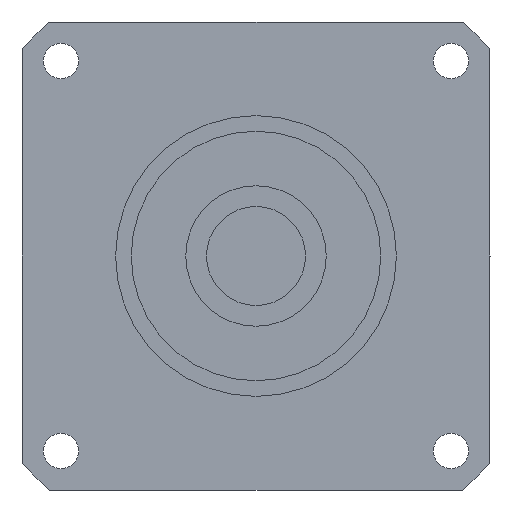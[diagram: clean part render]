
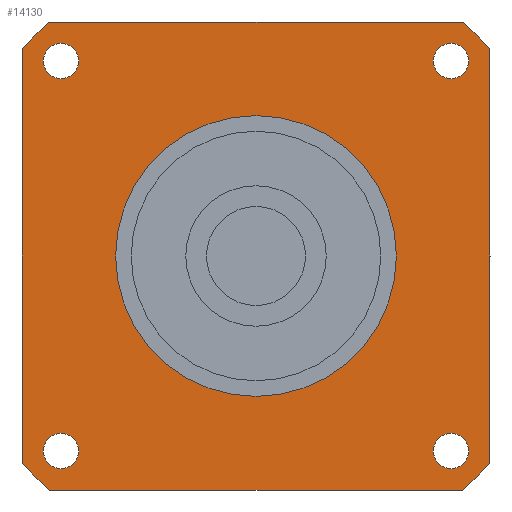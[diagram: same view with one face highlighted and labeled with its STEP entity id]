
A CAD part, left-side view. The second image highlights one B-rep face of the part: STEP entity #14130.
In plain terms, the highlighted planar face has unit normal (-1, 0, 0) as drawn and (0, 0, -1) by its records, which use the part's own axes.
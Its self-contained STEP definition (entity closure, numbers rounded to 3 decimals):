
#8830=CARTESIAN_POINT('',(-30.,-26.458,-35.1));
#8840=VERTEX_POINT('',#8830);
#8890=CARTESIAN_POINT('',(-30.,-30.,-35.1));
#8900=DIRECTION('',(0.,1.,0.));
#8910=VECTOR('',#8900,1000.);
#8920=LINE('',#8890,#8910);
#8930=CARTESIAN_POINT('',(-30.,26.458,-35.1));
#8940=VERTEX_POINT('',#8930);
#8950=EDGE_CURVE('',#8840,#8940,#8920,.T.);
#9340=CARTESIAN_POINT('',(22.75,-25.,-35.1));
#9350=VERTEX_POINT('',#9340);
#9380=CARTESIAN_POINT('',(25.,-25.,-35.1));
#9390=DIRECTION('',(0.,0.,-1.));
#9400=DIRECTION('',(1.,0.,0.));
#9410=AXIS2_PLACEMENT_3D('',#9380,#9390,#9400);
#9420=CIRCLE('',#9410,2.25);
#9430=CARTESIAN_POINT('',(27.25,-25.,-35.1));
#9440=VERTEX_POINT('',#9430);
#9450=EDGE_CURVE('',#9440,#9350,#9420,.T.);
#12650=CARTESIAN_POINT('',(-25.,-22.75,-35.1));
#12660=VERTEX_POINT('',#12650);
#12690=CARTESIAN_POINT('',(-25.,-25.,-35.1));
#12700=DIRECTION('',(0.,0.,-1.));
#12710=DIRECTION('',(0.,-1.,0.));
#12720=AXIS2_PLACEMENT_3D('',#12690,#12700,#12710);
#12730=CIRCLE('',#12720,2.25);
#12740=CARTESIAN_POINT('',(-25.,-27.25,-35.1));
#12750=VERTEX_POINT('',#12740);
#12760=EDGE_CURVE('',#12750,#12660,#12730,.T.);
#12880=CARTESIAN_POINT('',(30.,30.,-35.1));
#12890=DIRECTION('',(0.,0.,-1.));
#12900=DIRECTION('',(1.,0.,0.));
#12910=AXIS2_PLACEMENT_3D('',#12880,#12890,#12900);
#12920=PLANE('',#12910);
#12930=ORIENTED_EDGE('',*,*,#12760,.F.);
#12940=EDGE_CURVE('',#12660,#12750,#12730,.T.);
#12950=ORIENTED_EDGE('',*,*,#12940,.F.);
#12960=EDGE_LOOP('',(#12950,#12930));
#12970=FACE_BOUND('',#12960,.T.);
#12980=CARTESIAN_POINT('',(-25.,25.,-35.1));
#12990=DIRECTION('',(0.,0.,-1.));
#13000=DIRECTION('',(-1.,0.,0.));
#13010=AXIS2_PLACEMENT_3D('',#12980,#12990,#13000);
#13020=CIRCLE('',#13010,2.25);
#13030=CARTESIAN_POINT('',(-27.25,25.,-35.1));
#13040=VERTEX_POINT('',#13030);
#13050=CARTESIAN_POINT('',(-22.75,25.,-35.1));
#13060=VERTEX_POINT('',#13050);
#13070=EDGE_CURVE('',#13040,#13060,#13020,.T.);
#13080=ORIENTED_EDGE('',*,*,#13070,.F.);
#13090=EDGE_CURVE('',#13060,#13040,#13020,.T.);
#13100=ORIENTED_EDGE('',*,*,#13090,.F.);
#13110=EDGE_LOOP('',(#13100,#13080));
#13120=FACE_BOUND('',#13110,.T.);
#13130=CARTESIAN_POINT('',(25.,25.,-35.1));
#13140=DIRECTION('',(0.,0.,-1.));
#13150=DIRECTION('',(0.,1.,0.));
#13160=AXIS2_PLACEMENT_3D('',#13130,#13140,#13150);
#13170=CIRCLE('',#13160,2.25);
#13180=CARTESIAN_POINT('',(25.,27.25,-35.1));
#13190=VERTEX_POINT('',#13180);
#13200=CARTESIAN_POINT('',(25.,22.75,-35.1));
#13210=VERTEX_POINT('',#13200);
#13220=EDGE_CURVE('',#13190,#13210,#13170,.T.);
#13230=ORIENTED_EDGE('',*,*,#13220,.F.);
#13240=EDGE_CURVE('',#13210,#13190,#13170,.T.);
#13250=ORIENTED_EDGE('',*,*,#13240,.F.);
#13260=EDGE_LOOP('',(#13250,#13230));
#13270=FACE_BOUND('',#13260,.T.);
#13280=CARTESIAN_POINT('',(0.,0.,
-35.1));
#13290=DIRECTION('',(0.,0.,1.));
#13300=DIRECTION('',(0.,1.,0.));
#13310=AXIS2_PLACEMENT_3D('',#13280,#13290,#13300);
#13320=CIRCLE('',#13310,18.);
#13330=CARTESIAN_POINT('',(-18.,0.,-35.1));
#13340=VERTEX_POINT('',#13330);
#13350=CARTESIAN_POINT('',(18.,0.,-35.1));
#13360=VERTEX_POINT('',#13350);
#13370=EDGE_CURVE('',#13340,#13360,#13320,.T.);
#13380=ORIENTED_EDGE('',*,*,#13370,.T.);
#13390=CARTESIAN_POINT('',(0.,18.,-35.1));
#13400=VERTEX_POINT('',#13390);
#13410=EDGE_CURVE('',#13400,#13340,#13320,.T.);
#13420=ORIENTED_EDGE('',*,*,#13410,.T.);
#13430=EDGE_CURVE('',#13360,#13400,#13320,.T.);
#13440=ORIENTED_EDGE('',*,*,#13430,.T.);
#13450=EDGE_LOOP('',(#13440,#13420,#13380));
#13460=FACE_BOUND('',#13450,.T.);
#13470=CARTESIAN_POINT('',(-30.,30.,-35.1));
#13480=DIRECTION('',(1.,0.,0.));
#13490=VECTOR('',#13480,1000.);
#13500=LINE('',#13470,#13490);
#13510=CARTESIAN_POINT('',(-26.458,30.,-35.1));
#13520=VERTEX_POINT('',#13510);
#13530=CARTESIAN_POINT('',(26.458,30.,-35.1));
#13540=VERTEX_POINT('',#13530);
#13550=EDGE_CURVE('',#13520,#13540,#13500,.T.);
#13560=ORIENTED_EDGE('',*,*,#13550,.T.);
#13570=CARTESIAN_POINT('',(0.,0.,-35.1));
#13580=DIRECTION('',(0.,0.,-1.));
#13590=DIRECTION('',(1.,0.,0.));
#13600=AXIS2_PLACEMENT_3D('',#13570,#13580,#13590);
#13610=CIRCLE('',#13600,40.);
#13620=EDGE_CURVE('',#8940,#13520,#13610,.T.);
#13630=ORIENTED_EDGE('',*,*,#13620,.T.);
#13640=ORIENTED_EDGE('',*,*,#8950,.T.);
#13650=CARTESIAN_POINT('',(0.,0.,-35.1));
#13660=DIRECTION('',(0.,0.,-1.));
#13670=DIRECTION('',(1.,0.,0.));
#13680=AXIS2_PLACEMENT_3D('',#13650,#13660,#13670);
#13690=CIRCLE('',#13680,40.);
#13700=CARTESIAN_POINT('',(-26.458,-30.,-35.1));
#13710=VERTEX_POINT('',#13700);
#13720=EDGE_CURVE('',#13710,#8840,#13690,.T.);
#13730=ORIENTED_EDGE('',*,*,#13720,.T.);
#13740=CARTESIAN_POINT('',(30.,-30.,-35.1));
#13750=DIRECTION('',(-1.,0.,0.));
#13760=VECTOR('',#13750,1000.);
#13770=LINE('',#13740,#13760);
#13780=CARTESIAN_POINT('',(26.458,-30.,-35.1));
#13790=VERTEX_POINT('',#13780);
#13800=EDGE_CURVE('',#13790,#13710,#13770,.T.);
#13810=ORIENTED_EDGE('',*,*,#13800,.T.);
#13820=CARTESIAN_POINT('',(0.,0.,-35.1));
#13830=DIRECTION('',(0.,0.,-1.));
#13840=DIRECTION('',(1.,0.,0.));
#13850=AXIS2_PLACEMENT_3D('',#13820,#13830,#13840);
#13860=CIRCLE('',#13850,40.);
#13870=CARTESIAN_POINT('',(30.,-26.458,-35.1));
#13880=VERTEX_POINT('',#13870);
#13890=EDGE_CURVE('',#13880,#13790,#13860,.T.);
#13900=ORIENTED_EDGE('',*,*,#13890,.T.);
#13910=CARTESIAN_POINT('',(30.,30.,-35.1));
#13920=DIRECTION('',(0.,-1.,0.));
#13930=VECTOR('',#13920,1000.);
#13940=LINE('',#13910,#13930);
#13950=CARTESIAN_POINT('',(30.,26.458,-35.1));
#13960=VERTEX_POINT('',#13950);
#13970=EDGE_CURVE('',#13960,#13880,#13940,.T.);
#13980=ORIENTED_EDGE('',*,*,#13970,.T.);
#13990=CARTESIAN_POINT('',(0.,0.,-35.1));
#14000=DIRECTION('',(0.,0.,-1.));
#14010=DIRECTION('',(1.,0.,0.));
#14020=AXIS2_PLACEMENT_3D('',#13990,#14000,#14010);
#14030=CIRCLE('',#14020,40.);
#14040=EDGE_CURVE('',#13540,#13960,#14030,.T.);
#14050=ORIENTED_EDGE('',*,*,#14040,.T.);
#14060=EDGE_LOOP('',(#14050,#13980,#13900,#13810,#13730,#13640,#13630,
#13560));
#14070=FACE_OUTER_BOUND('',#14060,.T.);
#14080=ORIENTED_EDGE('',*,*,#9450,.F.);
#14090=EDGE_CURVE('',#9350,#9440,#9420,.T.);
#14100=ORIENTED_EDGE('',*,*,#14090,.F.);
#14110=EDGE_LOOP('',(#14100,#14080));
#14120=FACE_BOUND('',#14110,.T.);
#14130=ADVANCED_FACE('',(#12970,#13120,#13270,#13460,#14070,#14120),
#12920,.T.);
